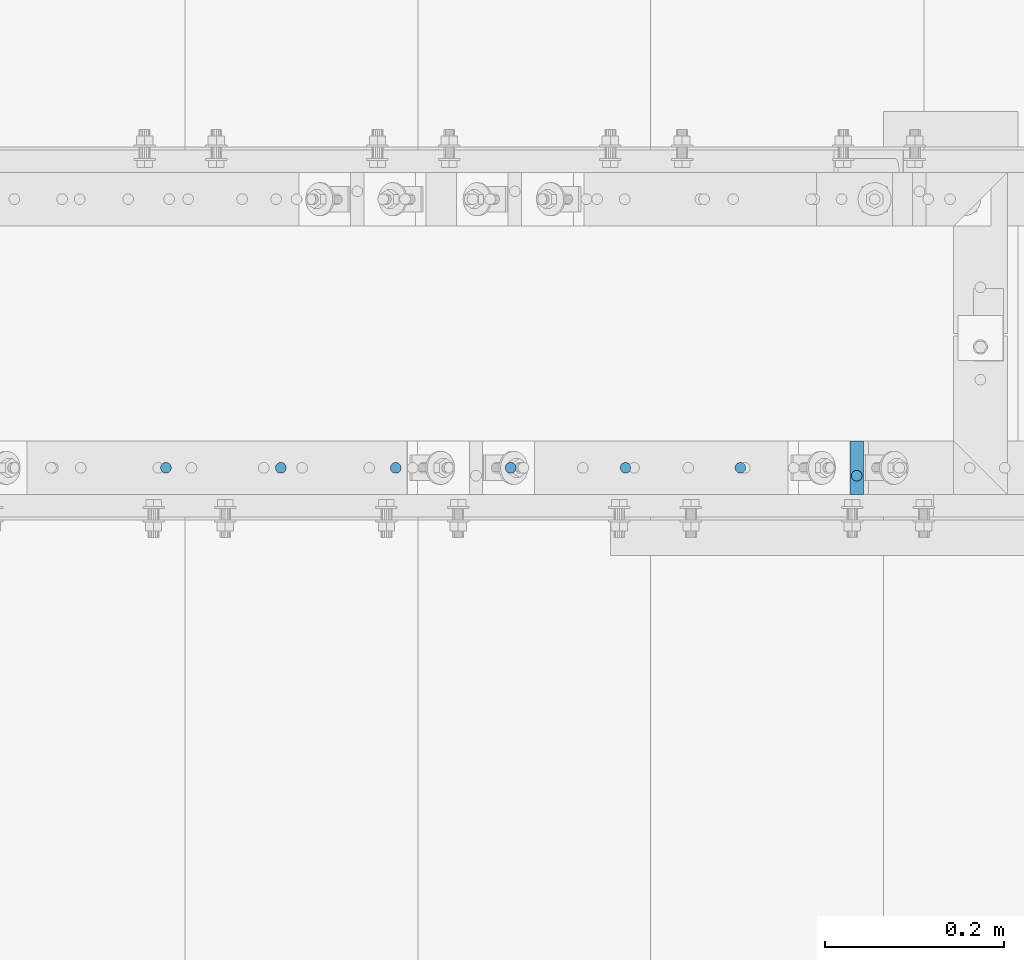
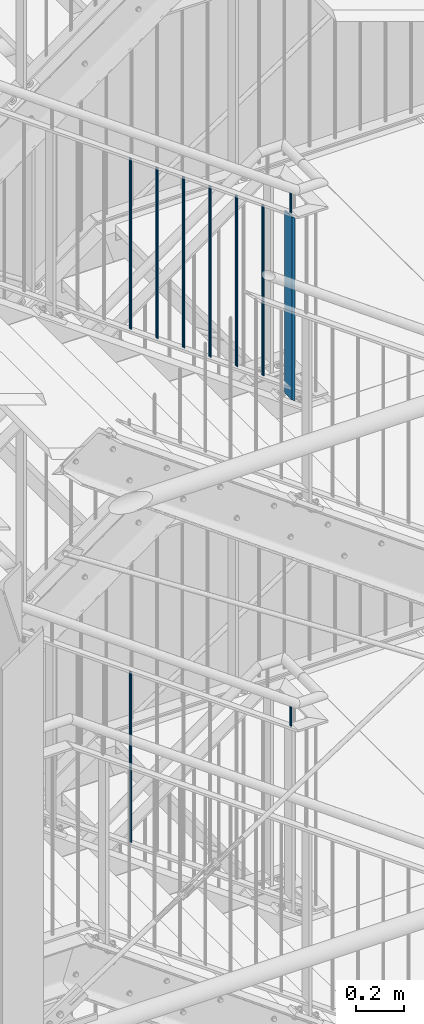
# One storey, part 60 of 825: 10 columns.
"""IFC2X3 building model written with IfcOpenShell, lengths in millimetres."""

from ifc_helpers import new_model, entity, si_unit, converted_unit, frame, origin, origin_with_axes, origin_2d, place, context, project, spatial, rectangle, circle, extrude, clip, halfspace, material, element, save


model = new_model("IFC2X3")

# Units and contexts
model_context = context("Model", 3, precision=1e-09, world=origin_with_axes())
ifc_project = project(units=[si_unit("LENGTHUNIT", "METRE", prefix="MILLI"), si_unit("AREAUNIT", "SQUARE_METRE"), si_unit("VOLUMEUNIT", "CUBIC_METRE"), converted_unit("PLANEANGLEUNIT", "DEGREE", entity("IfcPlaneAngleMeasure", 0.01745329), si_unit("PLANEANGLEUNIT", "RADIAN"), dimensions=[0, 0, 0, 0, 0, 0, 0])], contexts=[model_context])

# Site, building, storey
site_placement = place(None, origin_with_axes())
site = spatial("IfcSite", under=ifc_project, at=site_placement, Name="Cnopf'sche Kinderklinik", CompositionType="ELEMENT")
building_placement = place(site_placement, origin_with_axes())
building = spatial("IfcBuilding", under=site, at=building_placement, Name="Struktur 1", CompositionType="ELEMENT")
storey_placement = place(building_placement, origin_with_axes())
storey = spatial("IfcBuildingStorey", under=building, at=storey_placement, Name="Default Storey", CompositionType="ELEMENT", Elevation=0.0)

# Columns
ifc_material = material(Name="S235JR")
column_1_placement = place(None, frame((6255.548331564, 5791.736971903, 10227.273236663), z_axis=(0.0, 0.0, 1.0), x_axis=(-1.0, 0.0, 0.0)))
element("IfcColumn", 1, at=column_1_placement, inside=storey, material=ifc_material, Name="Railing_Picket_Stair#5", ObjectType="Railing_Picket_Stair#5", context=model_context, shape_type="Clipping", body=[
    clip(clip(extrude(circle(Radius=6.0, at=origin_2d()), origin(), (0.0, 0.0, -1.0), 896.057999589), halfspace(frame((-743.337733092, 5791.736971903, -547.962721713), z_axis=(0.585945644, 0.0, -0.810350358), x_axis=(0.0, 1.0, 0.0)), True)), halfspace(frame((-327.815342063, 5791.736971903, -1122.621347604), z_axis=(-0.585945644, 0.0, 0.810350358), x_axis=(0.0, -1.0, 0.0)), True)),
])
column_2_placement = place(None, frame((7026.714402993, 5782.936971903, 9782.001187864), z_axis=(0.0, 0.0, 1.0), x_axis=(0.0, 1.0, 0.0)))
element("IfcColumn", 2, at=column_2_placement, inside=storey, material=ifc_material, Name="Bar#0", ObjectType="Bar#0", context=model_context, shape_type="Clipping", body=[
    clip(clip(extrude(circle(Radius=6.0, at=origin_2d()), origin(), (0.0, 0.0, -1.0), 120.942253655), halfspace(frame((-5782.936971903, 21.96771001, -94.585548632), z_axis=(0.0, -0.585945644, 0.810350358), x_axis=(1.0, 0.0, 0.0)), True)), halfspace(frame((-5782.936971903, -25.513244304, -28.920399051), z_axis=(0.0, 0.585945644, -0.810350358), x_axis=(-1.0, 0.0, 0.0)), True)),
])
column_3_placement = place(None, frame((7026.714402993, 5791.736971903, 12326.80913319), z_axis=(0.0, 0.0, 1.0), x_axis=(-1.0, 0.0, 0.0)))
element("IfcColumn", 3, at=column_3_placement, inside=storey, material=ifc_material, Name="Railing_Post_Stair#0", ObjectType="Railing_Post_Stair#0", context=model_context, shape_type="Clipping", body=[
    clip(clip(extrude(rectangle(XDim=15.0, YDim=60.0, at=origin_2d()), origin(), (0.0, 0.0, -1.0), 1013.129684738), halfspace(frame((-766.626849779, 5791.736971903, -1528.27005191), z_axis=(-0.585213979, 0.0, 0.810878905), x_axis=(0.0, -1.0, 0.0)), True)), halfspace(frame((-1211.200394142, 5791.736971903, -912.264074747), z_axis=(0.585213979, 0.0, -0.810878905), x_axis=(0.0, 1.0, 0.0)), True)),
])
column_4_placement = place(None, frame((6896.934402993, 5791.736971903, 12392.800564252), z_axis=(0.0, 0.0, 1.0), x_axis=(-1.0, 0.0, 0.0)))
element("IfcColumn", 4, at=column_4_placement, inside=storey, material=ifc_material, Name="Railing_Picket_Stair#0", ObjectType="Railing_Picket_Stair#0", context=model_context, shape_type="Clipping", body=[
    clip(clip(extrude(circle(Radius=6.0, at=origin_2d()), origin(), (0.0, 0.0, -1.0), 896.125751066), halfspace(frame((-1340.980394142, 5791.736971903, -978.25550581), z_axis=(0.585213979, 0.0, -0.810878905), x_axis=(0.0, 1.0, 0.0)), True)), halfspace(frame((-925.667548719, 5791.736971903, -1553.717537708), z_axis=(-0.585213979, 0.0, 0.810878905), x_axis=(0.0, -1.0, 0.0)), True)),
])
column_5_placement = place(None, frame((6768.657188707, 5791.736971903, 12485.378652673), z_axis=(0.0, 0.0, 1.0), x_axis=(-1.0, 0.0, 0.0)))
element("IfcColumn", 5, at=column_5_placement, inside=storey, material=ifc_material, Name="Railing_Picket_Stair#1", ObjectType="Railing_Picket_Stair#1", context=model_context, shape_type="Clipping", body=[
    clip(clip(extrude(circle(Radius=6.0, at=origin_2d()), origin(), (0.0, 0.0, -1.0), 896.125751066), halfspace(frame((-1469.257608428, 5791.736971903, -1070.83359423), z_axis=(0.585213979, 0.0, -0.810878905), x_axis=(0.0, 1.0, 0.0)), True)), halfspace(frame((-1053.944763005, 5791.736971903, -1646.295626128), z_axis=(-0.585213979, 0.0, 0.810878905), x_axis=(0.0, -1.0, 0.0)), True)),
])
column_6_placement = place(None, frame((6640.379974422, 5791.736971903, 12577.956741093), z_axis=(0.0, 0.0, 1.0), x_axis=(-1.0, 0.0, 0.0)))
element("IfcColumn", 6, at=column_6_placement, inside=storey, material=ifc_material, Name="Railing_Picket_Stair#2", ObjectType="Railing_Picket_Stair#2", context=model_context, shape_type="Clipping", body=[
    clip(clip(extrude(circle(Radius=6.0, at=origin_2d()), origin(), (0.0, 0.0, -1.0), 896.125751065), halfspace(frame((-1597.534822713, 5791.736971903, -1163.41168265), z_axis=(0.585213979, 0.0, -0.810878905), x_axis=(0.0, 1.0, 0.0)), True)), halfspace(frame((-1182.221977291, 5791.736971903, -1738.873714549), z_axis=(-0.585213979, 0.0, 0.810878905), x_axis=(0.0, -1.0, 0.0)), True)),
])
column_7_placement = place(None, frame((6512.102760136, 5791.736971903, 12670.534829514), z_axis=(0.0, 0.0, 1.0), x_axis=(-1.0, 0.0, 0.0)))
element("IfcColumn", 7, at=column_7_placement, inside=storey, material=ifc_material, Name="Railing_Picket_Stair#3", ObjectType="Railing_Picket_Stair#3", context=model_context, shape_type="Clipping", body=[
    clip(clip(extrude(circle(Radius=6.0, at=origin_2d()), origin(), (0.0, 0.0, -1.0), 896.125751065), halfspace(frame((-1725.812036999, 5791.736971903, -1255.989771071), z_axis=(0.585213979, 0.0, -0.810878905), x_axis=(0.0, 1.0, 0.0)), True)), halfspace(frame((-1310.499191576, 5791.736971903, -1831.451802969), z_axis=(-0.585213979, 0.0, 0.810878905), x_axis=(0.0, -1.0, 0.0)), True)),
])
column_8_placement = place(None, frame((6383.82554585, 5791.736971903, 12763.112917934), z_axis=(0.0, 0.0, 1.0), x_axis=(-1.0, 0.0, 0.0)))
element("IfcColumn", 8, at=column_8_placement, inside=storey, material=ifc_material, Name="Railing_Picket_Stair#4", ObjectType="Railing_Picket_Stair#4", context=model_context, shape_type="Clipping", body=[
    clip(clip(extrude(circle(Radius=6.0, at=origin_2d()), origin(), (0.0, 0.0, -1.0), 896.125751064), halfspace(frame((-1854.089251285, 5791.736971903, -1348.567859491), z_axis=(0.585213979, 0.0, -0.810878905), x_axis=(0.0, 1.0, 0.0)), True)), halfspace(frame((-1438.776405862, 5791.736971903, -1924.029891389), z_axis=(-0.585213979, 0.0, 0.810878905), x_axis=(0.0, -1.0, 0.0)), True)),
])
column_9_placement = place(None, frame((6255.548331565, 5791.736971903, 12855.691006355), z_axis=(0.0, 0.0, 1.0), x_axis=(-1.0, 0.0, 0.0)))
element("IfcColumn", 9, at=column_9_placement, inside=storey, material=ifc_material, Name="Railing_Picket_Stair#5", ObjectType="Railing_Picket_Stair#5", context=model_context, shape_type="Clipping", body=[
    clip(clip(extrude(circle(Radius=6.0, at=origin_2d()), origin(), (0.0, 0.0, -1.0), 896.125751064), halfspace(frame((-1982.36646557, 5791.736971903, -1441.145947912), z_axis=(0.585213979, 0.0, -0.810878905), x_axis=(0.0, 1.0, 0.0)), True)), halfspace(frame((-1567.053620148, 5791.736971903, -2016.60797981), z_axis=(-0.585213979, 0.0, 0.810878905), x_axis=(0.0, -1.0, 0.0)), True)),
])
column_10_placement = place(None, frame((7026.714402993, 5782.936971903, 12411.470208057), z_axis=(0.0, 0.0, 1.0), x_axis=(0.0, 1.0, 0.0)))
element("IfcColumn", 10, at=column_10_placement, inside=storey, material=ifc_material, Name="Bar#0", ObjectType="Bar#0", context=model_context, shape_type="Clipping", body=[
    clip(clip(extrude(circle(Radius=6.0, at=origin_2d()), origin(), (0.0, 0.0, -1.0), 120.928603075), halfspace(frame((-5782.936971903, -1217.053704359, -988.814738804), z_axis=(0.0, -0.585213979, 0.810878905), x_axis=(1.0, 0.0, 0.0)), True)), halfspace(frame((-5782.936971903, -1264.506300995, -923.063900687), z_axis=(0.0, 0.585213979, -0.810878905), x_axis=(-1.0, 0.0, 0.0)), True)),
])

save(model, "model.ifc")
